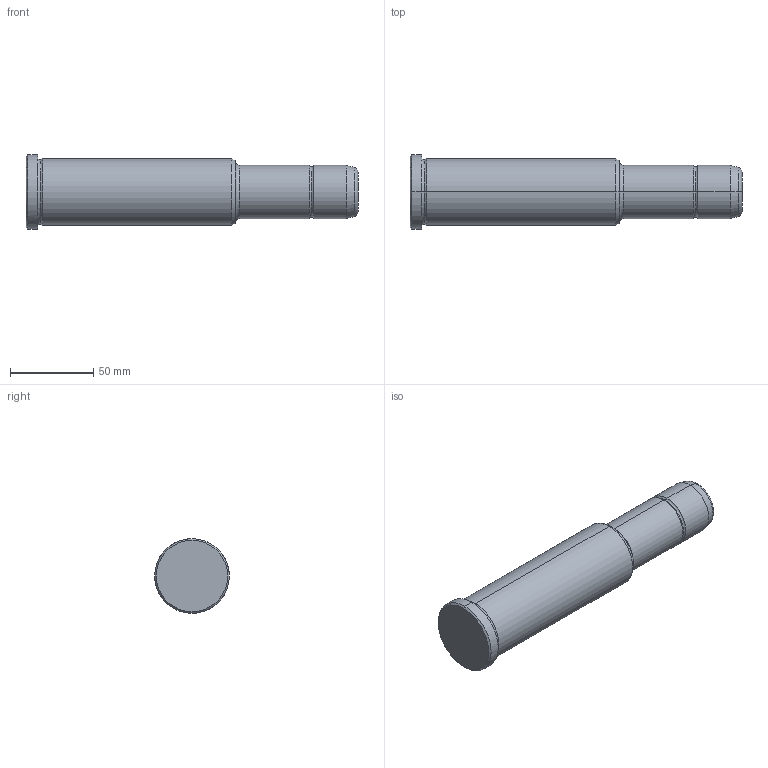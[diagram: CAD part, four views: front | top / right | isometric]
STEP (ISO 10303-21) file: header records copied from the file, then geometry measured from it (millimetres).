
FILE_DESCRIPTION(('CATIA V5 STEP Exchange'),'2;1');
FILE_NAME('C:\Users\Utente\Desktop\IO LAVORO\3D X SITO CF\X SITO\PLASTICA\351\351-32X126X200.stp','2021-09-15T12:26:56+00:00',('none'),('none'),'CATIA Version 5 Release 20 GA (IN-10)','CATIA V5 STEP AP203','none');
FILE_SCHEMA(('CONFIG_CONTROL_DESIGN'));
Length unit declared in the file: millimetre
Products named in the file (1): 351-32X126X200
Bounding box: 200 x 45 x 45 mm (x, y, z)
Volume: 219123.8 mm3; surface area: 26080.6 mm2
Topology: 1 solids, 1 shells, 30 faces, 86 edges, 60 vertices
Faces by surface type: torus 12, cylinder 8, cone 6, plane 4
Entity records: 1112 total; most frequent: CARTESIAN_POINT 289, ORIENTED_EDGE 172, DIRECTION 138, AXIS2_PLACEMENT_3D 95, EDGE_CURVE 86, CIRCLE 64, VERTEX_POINT 60, EDGE_LOOP 32
